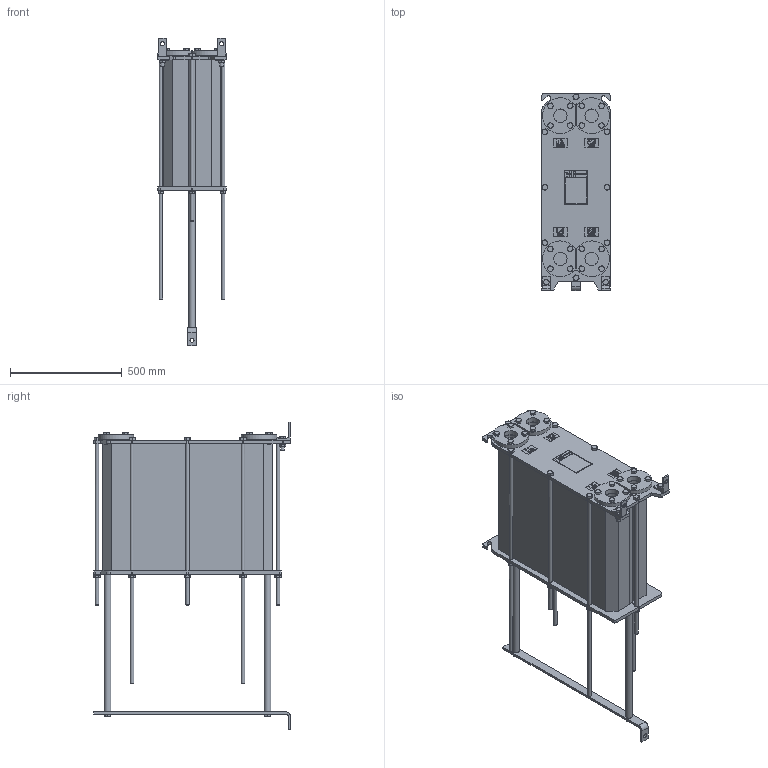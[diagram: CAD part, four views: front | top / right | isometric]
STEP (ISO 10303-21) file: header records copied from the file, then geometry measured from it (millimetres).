
FILE_DESCRIPTION (( 'STEP AP214' ), '1' );
FILE_NAME ('ÏÒ S50 ðåä7 10áàð ê ñèãìà 181...240.STEP', '2021-04-24T21:10:37', ( '' ), ( '' ), 'SwSTEP 2.0', 'SolidWorks 2018', '' );
FILE_SCHEMA (( 'AUTOMOTIVE_DESIGN' ));
Length unit declared in the file: millimetre
Products named in the file (3): ÏÒ S50 ðåä7 10áàð ê ñèãìà1; ÏÒ S50 ðåä7 10áàð ê ñèãìà 181...240; ÏÒ S50 ðåä7 10áàð ê ñèãìà2 181...240
Assembly tree (2 placements, depth 2):
  ÏÒ S50 ðåä7 10áàð ê ñèãìà 181...240
    ÏÒ S50 ðåä7 10áàð ê ñèãìà2 181...240
    ÏÒ S50 ðåä7 10áàð ê ñèãìà1
Bounding box: 308.99 x 880 x 1375 mm (x, y, z)
Volume: 113528773.9 mm3; surface area: 4048018.2 mm2
Topology: 30 solids, 36 shells, 1958 faces, 4774 edges, 3043 vertices
Faces by surface type: plane 1034, cone 416, bspline 275, cylinder 211, torus 22
Full cylindrical faces by diameter (mm): 16 x62, 17 x12, 18 x23, 29.48 x2, 30 x16, 60 x12, 60.01 x4, 101 x4
Entity records: 86216 total; most frequent: CARTESIAN_POINT 22848, ORIENTED_EDGE 8920, DIRECTION 7488, EDGE_CURVE 4460, VERTEX_POINT 2966, AXIS2_PLACEMENT_3D 2562, EDGE_LOOP 2444, VECTOR 2364
